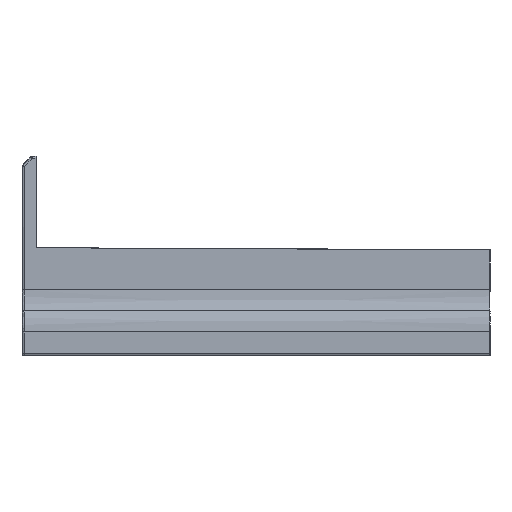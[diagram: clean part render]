
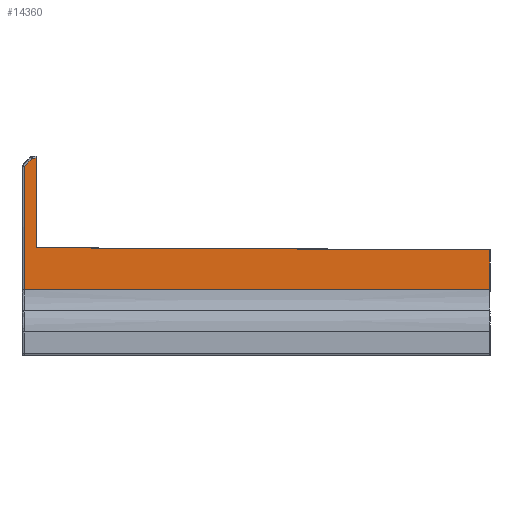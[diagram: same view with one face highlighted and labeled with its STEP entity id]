
A CAD part, left-side view. The second image highlights one B-rep face of the part: STEP entity #14360.
In plain terms, the highlighted planar face has unit normal (-1, 0.004, 0).
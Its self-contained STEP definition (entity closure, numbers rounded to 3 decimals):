
#157 = EDGE_CURVE ( 'NONE', #14045, #6653, #1506, .T. ) ;
#780 = CARTESIAN_POINT ( 'NONE',  ( -77.618, 46.026, 5.039 ) ) ;
#947 = LINE ( 'NONE', #4669, #7241 ) ;
#1365 = CARTESIAN_POINT ( 'NONE',  ( -77.489, 75.502, 4.996 ) ) ;
#1506 = B_SPLINE_CURVE_WITH_KNOTS ( 'NONE', 3,
 ( #14413, #1674, #11896, #8662 ),
 .UNSPECIFIED., .F., .F.,
 ( 4, 4 ),
 ( 0.406, 0.502 ),
 .UNSPECIFIED. ) ;
#1674 = CARTESIAN_POINT ( 'NONE',  ( -77.64, 41., 13.758 ) ) ;
#1679 = CARTESIAN_POINT ( 'NONE',  ( -77.488, 75.648, 30.948 ) ) ;
#1912 = LINE ( 'NONE', #1679, #6382 ) ;
#2112 = ORIENTED_EDGE ( 'NONE', *, *, #9851, .T. ) ;
#2215 = VERTEX_POINT ( 'NONE', #7578 ) ;
#2765 = B_SPLINE_CURVE_WITH_KNOTS ( 'NONE', 3,
 ( #11247, #4498, #14506, #780, #8008, #13268, #6494 ),
 .UNSPECIFIED., .F., .F.,
 ( 4, 3, 4 ),
 ( 0., 0.03, 0.099 ),
 .UNSPECIFIED. ) ;
#3239 = DIRECTION ( 'NONE',  ( 0., 0., 1. ) ) ;
#3317 = DIRECTION ( 'NONE',  ( -0.004, -1., 0. ) ) ;
#3685 = VERTEX_POINT ( 'NONE', #7539 ) ;
#3807 = ORIENTED_EDGE ( 'NONE', *, *, #10624, .T. ) ;
#4379 = EDGE_CURVE ( 'NONE', #8026, #7561, #947, .T. ) ;
#4498 = CARTESIAN_POINT ( 'NONE',  ( -77.532, 65.677, 5.011 ) ) ;
#4545 = CARTESIAN_POINT ( 'NONE',  ( -77.489, 75.502, 31.093 ) ) ;
#4669 = CARTESIAN_POINT ( 'NONE',  ( -77.496, 74.019, 32.764 ) ) ;
#5612 = VECTOR ( 'NONE', #11076, 1000. ) ;
#5793 = DIRECTION ( 'NONE',  ( -1., 0.004, 0. ) ) ;
#5972 = LINE ( 'NONE', #13001, #12561 ) ;
#6382 = VECTOR ( 'NONE', #10400, 1000. ) ;
#6494 = CARTESIAN_POINT ( 'NONE',  ( -77.919, -23., 5.139 ) ) ;
#6653 = VERTEX_POINT ( 'NONE', #10109 ) ;
#6961 = CARTESIAN_POINT ( 'NONE',  ( -77.5, 73., 9. ) ) ;
#7038 = ORIENTED_EDGE ( 'NONE', *, *, #11619, .T. ) ;
#7241 = VECTOR ( 'NONE', #14673, 1000. ) ;
#7325 = AXIS2_PLACEMENT_3D ( 'NONE', #8294, #5793, #3317 ) ;
#7480 = DIRECTION ( 'NONE',  ( 0., 0., 1. ) ) ;
#7539 = CARTESIAN_POINT ( 'NONE',  ( -77.919, -23., 5.139 ) ) ;
#7561 = VERTEX_POINT ( 'NONE', #8179 ) ;
#7578 = CARTESIAN_POINT ( 'NONE',  ( -77.489, 75.502, 4.996 ) ) ;
#8008 = CARTESIAN_POINT ( 'NONE',  ( -77.718, 23.018, 5.072 ) ) ;
#8018 = EDGE_CURVE ( 'NONE', #2215, #3685, #2765, .T. ) ;
#8026 = VERTEX_POINT ( 'NONE', #9500 ) ;
#8036 = ORIENTED_EDGE ( 'NONE', *, *, #4379, .T. ) ;
#8179 = CARTESIAN_POINT ( 'NONE',  ( -77.496, 73.824, 32.771 ) ) ;
#8294 = CARTESIAN_POINT ( 'NONE',  ( -77.5, 73., 9. ) ) ;
#8662 = CARTESIAN_POINT ( 'NONE',  ( -77.919, -23., 13.434 ) ) ;
#8795 = FACE_OUTER_BOUND ( 'NONE', #10980, .T. ) ;
#9500 = CARTESIAN_POINT ( 'NONE',  ( -77.5, 73., 32.8 ) ) ;
#9587 = ORIENTED_EDGE ( 'NONE', *, *, #8018, .T. ) ;
#9851 = EDGE_CURVE ( 'NONE', #3685, #6653, #5972, .T. ) ;
#10109 = CARTESIAN_POINT ( 'NONE',  ( -77.919, -23., 13.434 ) ) ;
#10278 = PLANE ( 'NONE',  #7325 ) ;
#10400 = DIRECTION ( 'NONE',  ( 0.003, 0.707, -0.707 ) ) ;
#10624 = EDGE_CURVE ( 'NONE', #7561, #14389, #1912, .T. ) ;
#10980 = EDGE_LOOP ( 'NONE', ( #13344, #8036, #3807, #7038, #9587, #2112, #14798 ) ) ;
#11076 = DIRECTION ( 'NONE',  ( 0., 0., -1. ) ) ;
#11086 = VECTOR ( 'NONE', #3239, 1000. ) ;
#11247 = CARTESIAN_POINT ( 'NONE',  ( -77.489, 75.502, 4.996 ) ) ;
#11619 = EDGE_CURVE ( 'NONE', #14389, #2215, #14831, .T. ) ;
#11896 = CARTESIAN_POINT ( 'NONE',  ( -77.779, 9., 13.607 ) ) ;
#12561 = VECTOR ( 'NONE', #7480, 1000. ) ;
#12984 = LINE ( 'NONE', #6961, #11086 ) ;
#13001 = CARTESIAN_POINT ( 'NONE',  ( -77.919, -23., 9. ) ) ;
#13257 = EDGE_CURVE ( 'NONE', #14045, #8026, #12984, .T. ) ;
#13268 = CARTESIAN_POINT ( 'NONE',  ( -77.818, 0.009, 5.106 ) ) ;
#13344 = ORIENTED_EDGE ( 'NONE', *, *, #13257, .T. ) ;
#14045 = VERTEX_POINT ( 'NONE', #14237 ) ;
#14237 = CARTESIAN_POINT ( 'NONE',  ( -77.5, 73., 13.898 ) ) ;
#14360 = ADVANCED_FACE ( 'NONE', ( #8795 ), #10278, .T. ) ;
#14389 = VERTEX_POINT ( 'NONE', #4545 ) ;
#14413 = CARTESIAN_POINT ( 'NONE',  ( -77.5, 73., 13.898 ) ) ;
#14506 = CARTESIAN_POINT ( 'NONE',  ( -77.575, 55.852, 5.025 ) ) ;
#14673 = DIRECTION ( 'NONE',  ( 0.004, 0.999, -0.035 ) ) ;
#14798 = ORIENTED_EDGE ( 'NONE', *, *, #157, .F. ) ;
#14831 = LINE ( 'NONE', #1365, #5612 ) ;
